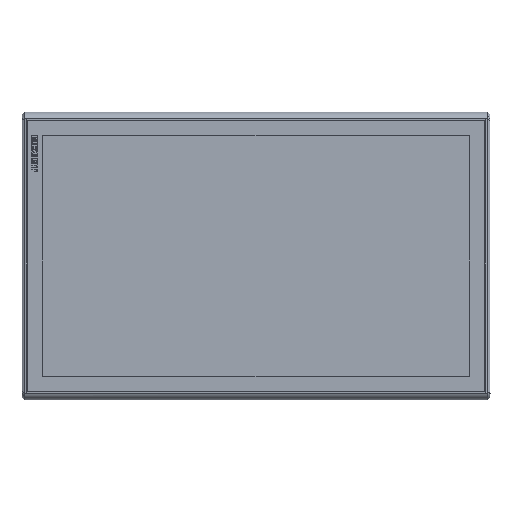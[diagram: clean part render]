
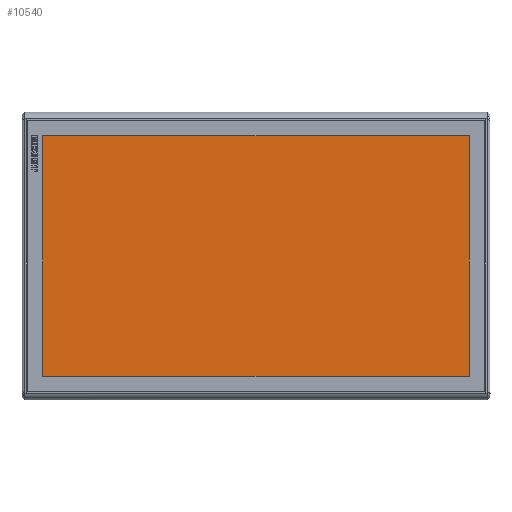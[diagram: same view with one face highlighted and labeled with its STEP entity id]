
A CAD part, top view. The second image highlights one B-rep face of the part: STEP entity #10540.
In plain terms, the highlighted planar face has unit normal (0, 0, 1).
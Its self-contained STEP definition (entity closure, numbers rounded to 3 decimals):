
#1049=PLANE('',#11268);
#1429=FACE_OUTER_BOUND('',#2099,.T.);
#2099=EDGE_LOOP('',(#7605,#7606,#7607,#7608));
#3109=LINE('',#18234,#3832);
#3110=LINE('',#18236,#3833);
#3111=LINE('',#18238,#3834);
#3112=LINE('',#18239,#3835);
#3832=VECTOR('',#12988,10.);
#3833=VECTOR('',#12989,10.);
#3834=VECTOR('',#12990,10.);
#3835=VECTOR('',#12991,10.);
#4529=VERTEX_POINT('',#18232);
#4530=VERTEX_POINT('',#18233);
#4531=VERTEX_POINT('',#18235);
#4532=VERTEX_POINT('',#18237);
#5672=EDGE_CURVE('',#4529,#4530,#3109,.T.);
#5673=EDGE_CURVE('',#4531,#4529,#3110,.T.);
#5674=EDGE_CURVE('',#4532,#4531,#3111,.T.);
#5675=EDGE_CURVE('',#4530,#4532,#3112,.T.);
#7605=ORIENTED_EDGE('',*,*,#5672,.F.);
#7606=ORIENTED_EDGE('',*,*,#5673,.F.);
#7607=ORIENTED_EDGE('',*,*,#5674,.F.);
#7608=ORIENTED_EDGE('',*,*,#5675,.F.);
#10540=ADVANCED_FACE('',(#1429),#1049,.T.);
#11268=AXIS2_PLACEMENT_3D('',#18231,#12986,#12987);
#12986=DIRECTION('center_axis',(0.,0.,
1.));
#12987=DIRECTION('ref_axis',(-1.,0.,0.));
#12988=DIRECTION('',(0.,1.,0.));
#12989=DIRECTION('',(-1.,0.,0.));
#12990=DIRECTION('',(0.,-1.,0.));
#12991=DIRECTION('',(1.,0.,0.));
#18231=CARTESIAN_POINT('Origin',(8.665,16.318,19.893));
#18232=CARTESIAN_POINT('',(-258.035,-134.182,19.893));
#18233=CARTESIAN_POINT('',(-258.035,166.818,19.893));
#18234=CARTESIAN_POINT('',(-258.035,91.568,19.893));
#18235=CARTESIAN_POINT('',(275.365,-134.182,19.893));
#18236=CARTESIAN_POINT('',(-124.685,-134.182,19.893));
#18237=CARTESIAN_POINT('',(275.365,166.818,19.893));
#18238=CARTESIAN_POINT('',(275.365,-58.932,19.893));
#18239=CARTESIAN_POINT('',(142.015,166.818,19.893));
